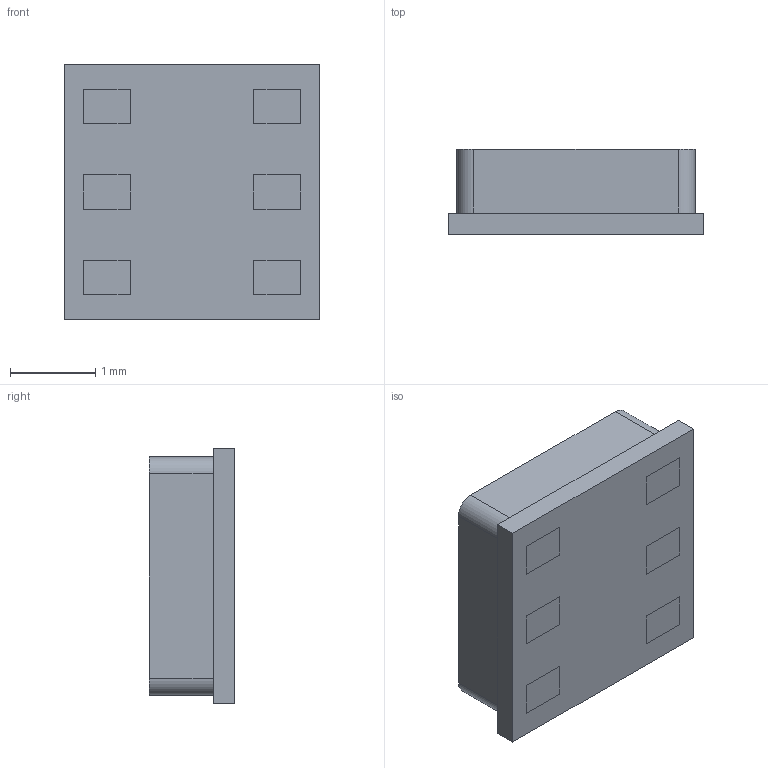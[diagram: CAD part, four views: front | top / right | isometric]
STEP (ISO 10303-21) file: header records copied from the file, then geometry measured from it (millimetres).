
FILE_DESCRIPTION(/* description */ (''),/* implementation_level */ '2;1');
FILE_NAME(/* name */ 'C:/Users/mak/Desktop/乾燥実験/KiCAD/部品図面/AHT20.step',/* time_stamp */ '2022-05-03T23:28:04+09:00',/* author */ (''),/* organization */ (''),/* preprocessor_version */ 'ST-DEVELOPER v18.1',/* originating_system */ 'Autodesk Translation Framework v10.14.0.1471',/* authorisation */ '');
FILE_SCHEMA (('AUTOMOTIVE_DESIGN { 1 0 10303 214 3 1 1 }'));
Length unit declared in the file: millimetre
Products named in the file (1): 無題
Bounding box: 3 x 1 x 3 mm (x, y, z)
Volume: 7.8 mm3; surface area: 52.3 mm2
Topology: 8 solids, 8 shells, 162 faces, 417 edges, 278 vertices
Faces by surface type: plane 116, bspline 40, cylinder 6
Entity records: 5287 total; most frequent: CARTESIAN_POINT 1538, ORIENTED_EDGE 834, DIRECTION 595, EDGE_CURVE 417, LINE 325, VECTOR 325, VERTEX_POINT 278, EDGE_LOOP 183
